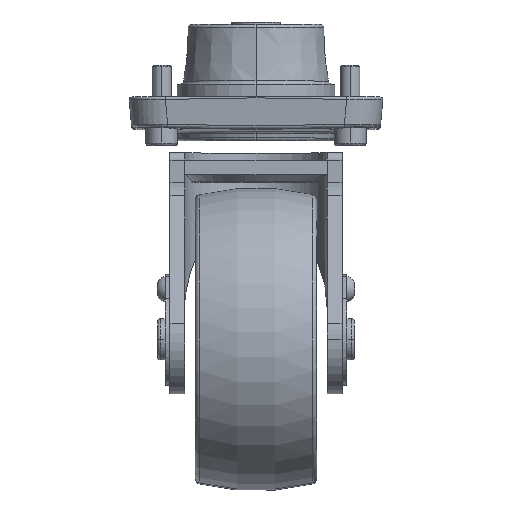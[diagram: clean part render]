
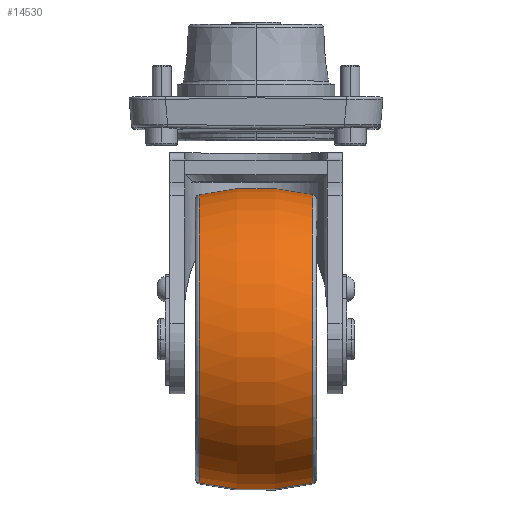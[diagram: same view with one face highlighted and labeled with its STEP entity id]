
A CAD part, top view. The second image highlights one B-rep face of the part: STEP entity #14530.
In plain terms, the highlighted toroidal (fillet/blend) face has major radius 37.5 mm and minor radius 100 mm.
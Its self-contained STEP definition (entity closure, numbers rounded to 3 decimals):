
#147 = CARTESIAN_POINT ( 'NONE',  ( -31.841, -144.527, 155.842 ) ) ;
#286 = EDGE_CURVE ( 'NONE', #10801, #3917, #3931, .T. ) ;
#454 = AXIS2_PLACEMENT_3D ( 'NONE', #8697, #1306, #9986 ) ;
#981 = FACE_OUTER_BOUND ( 'NONE', #4941, .T. ) ;
#1075 = EDGE_CURVE ( 'NONE', #5225, #15324, #11437, .T. ) ;
#1306 = DIRECTION ( 'NONE',  ( 1., 0., 0. ) ) ;
#2567 = EDGE_CURVE ( 'NONE', #10801, #15324, #10957, .T. ) ;
#3101 = TOROIDAL_SURFACE ( 'NONE', #6714, -37.5, 100. ) ;
#3790 = DIRECTION ( 'NONE',  ( 0., -0.126, -0.992 ) ) ;
#3917 = VERTEX_POINT ( 'NONE', #9009 ) ;
#3931 = CIRCLE ( 'NONE', #4704, 59.707 ) ;
#4562 = ORIENTED_EDGE ( 'NONE', *, *, #1075, .T. ) ;
#4704 = AXIS2_PLACEMENT_3D ( 'NONE', #10292, #11546, #13895 ) ;
#4941 = EDGE_LOOP ( 'NONE', ( #9692, #14507, #8634, #4562 ) ) ;
#5031 = CARTESIAN_POINT ( 'NONE',  ( -8.372, -48.098, 143.567 ) ) ;
#5225 = VERTEX_POINT ( 'NONE', #13599 ) ;
#6066 = DIRECTION ( 'NONE',  ( 0., 0.992, -0.126 ) ) ;
#6714 = AXIS2_PLACEMENT_3D ( 'NONE', #13494, #12357, #6066 ) ;
#7984 = CIRCLE ( 'NONE', #11013, 100. ) ;
#8634 = ORIENTED_EDGE ( 'NONE', *, *, #12204, .T. ) ;
#8697 = CARTESIAN_POINT ( 'NONE',  ( -31.841, -85.298, 148.302 ) ) ;
#8759 = CARTESIAN_POINT ( 'NONE',  ( 15.098, -144.527, 155.842 ) ) ;
#8854 = AXIS2_PLACEMENT_3D ( 'NONE', #5031, #3790, #13646 ) ;
#9009 = CARTESIAN_POINT ( 'NONE',  ( 15.098, -26.069, 140.763 ) ) ;
#9692 = ORIENTED_EDGE ( 'NONE', *, *, #2567, .F. ) ;
#9986 = DIRECTION ( 'NONE',  ( 0., -0.992, 0.126 ) ) ;
#10292 = CARTESIAN_POINT ( 'NONE',  ( 15.098, -85.298, 148.302 ) ) ;
#10801 = VERTEX_POINT ( 'NONE', #8759 ) ;
#10957 = CIRCLE ( 'NONE', #8854, 100. ) ;
#11013 = AXIS2_PLACEMENT_3D ( 'NONE', #12379, #15956, #14795 ) ;
#11437 = CIRCLE ( 'NONE', #454, 59.707 ) ;
#11546 = DIRECTION ( 'NONE',  ( -1., 0., 0. ) ) ;
#12204 = EDGE_CURVE ( 'NONE', #3917, #5225, #7984, .T. ) ;
#12357 = DIRECTION ( 'NONE',  ( -1., 0., 0. ) ) ;
#12379 = CARTESIAN_POINT ( 'NONE',  ( -8.372, -122.498, 153.038 ) ) ;
#13494 = CARTESIAN_POINT ( 'NONE',  ( -8.372, -85.298, 148.302 ) ) ;
#13599 = CARTESIAN_POINT ( 'NONE',  ( -31.841, -26.069, 140.763 ) ) ;
#13646 = DIRECTION ( 'NONE',  ( 0., 0.992, -0.126 ) ) ;
#13895 = DIRECTION ( 'NONE',  ( 0., 0.992, -0.126 ) ) ;
#14507 = ORIENTED_EDGE ( 'NONE', *, *, #286, .T. ) ;
#14530 = ADVANCED_FACE ( 'NONE', ( #981 ), #3101, .T. ) ;
#14795 = DIRECTION ( 'NONE',  ( 0., -0.992, 0.126 ) ) ;
#15324 = VERTEX_POINT ( 'NONE', #147 ) ;
#15956 = DIRECTION ( 'NONE',  ( 0., 0.126, 0.992 ) ) ;
